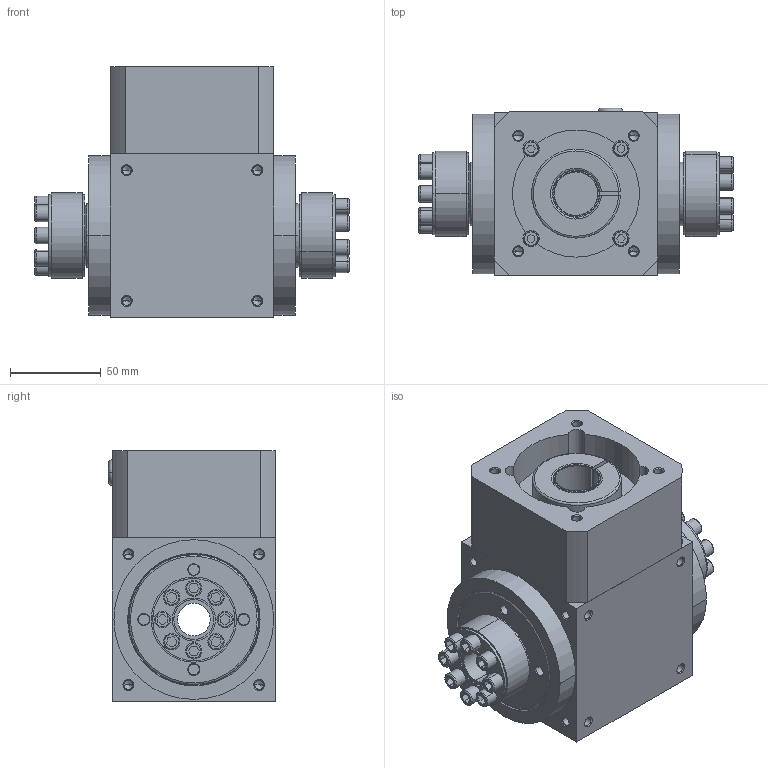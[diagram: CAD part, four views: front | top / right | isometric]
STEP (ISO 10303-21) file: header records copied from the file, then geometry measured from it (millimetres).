
FILE_DESCRIPTION (( 'STEP AP203' ), '1' );
FILE_NAME ('LAT90-C-ZJ2-22-47.STEP', '2025-01-10T07:46:49', ( '' ), ( '' ), 'SwSTEP 2.0', 'SolidWorks 2022', '' );
FILE_SCHEMA (( 'CONFIG_CONTROL_DESIGN' ));
Length unit declared in the file: millimetre
Products named in the file (1): LAT90-C-ZJ2-22-47
Bounding box: 173 x 92 x 138 mm (x, y, z)
Volume: 1193008.7 mm3; surface area: 213259.5 mm2
Topology: 31 solids, 31 shells, 837 faces, 1969 edges, 1199 vertices
Faces by surface type: cylinder 333, plane 261, cone 195, torus 48
Entity records: 23909 total; most frequent: CARTESIAN_POINT 4390, DIRECTION 4302, ORIENTED_EDGE 3842, EDGE_CURVE 1921, AXIS2_PLACEMENT_3D 1679, VERTEX_POINT 1199, EDGE_LOOP 1004, LINE 944
